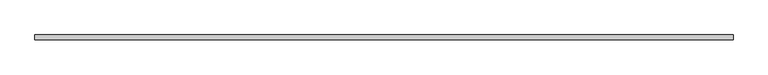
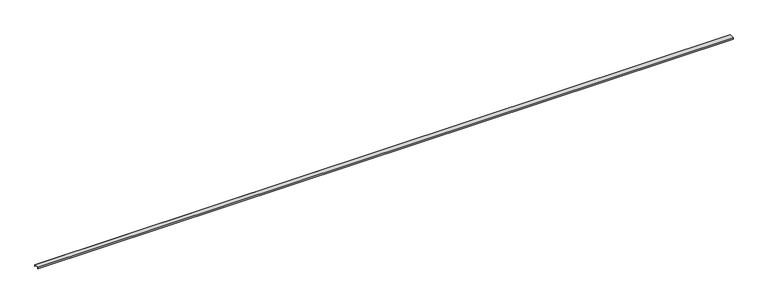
"""IFC4 building model written with IfcOpenShell, lengths in millimetres: proxy geometry, SICON Track Superior 2 1-2 : SICON Track Superior 2 1/2."""

from ifc_helpers import new_model, si_unit, frame, origin, place, context, project, spatial, polyline, outline, extrude, source, transform, mapped, element, save


def generic_models_21536118(model_context):
    return source(origin(), model_context, "Body", "SweptSolid", [
        extrude(outline(polyline([(32.0, -22.0), (31.0, -22.0), (31.0, -1.0), (-31.0, -1.0), (-31.0, -22.0), (-32.0, -22.0), (-32.0, 0.0), (32.0, 0.0), (32.0, -22.0)])), frame((2.5746571, 0.0, 0.0), z_axis=(1.0, 0.0, 0.0), x_axis=(0.0, 1.0, 0.0)), (0.0, 0.0, 1.0), 9500.0),
    ])


if __name__ == "__main__":
    model = new_model("IFC4")
    model_context = context("Model", 3, world=origin())
    ifc_project = project(units=[si_unit("LENGTHUNIT", "METRE", prefix="MILLI")], contexts=[model_context])
    site = spatial("IfcSite", under=ifc_project)
    building = spatial("IfcBuilding", under=site)
    placement = place(None, origin())
    generic_models_shape = generic_models_21536118(model_context)
    element("IfcBuildingElementProxy", 1, Name="SICON Track Superior 2 1-2 : SICON Track Superior 2 1/2", ObjectType="SICON Track Superior 2 1-2 : SICON Track Superior 2 1/2", at=placement, inside=building, context=model_context, shape_type="MappedRepresentation", body=[
        mapped(generic_models_shape, transform((0.0, 0.0, 0.0), x_axis=(1.0, 0.0, 0.0), y_axis=(0.0, 1.0, 0.0), z_axis=(0.0, 0.0, 1.0))),
    ])
    save(model, "model.ifc")
